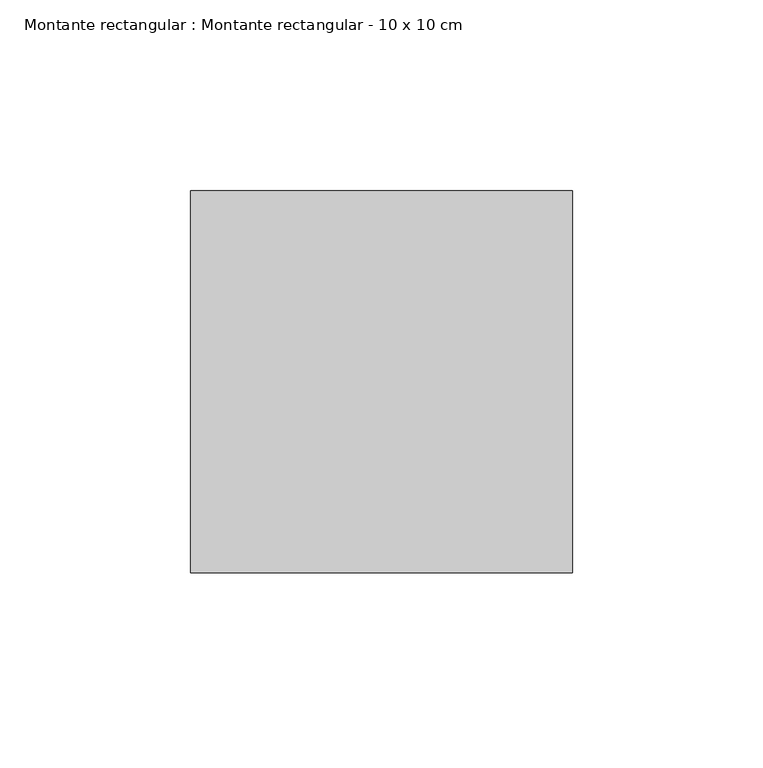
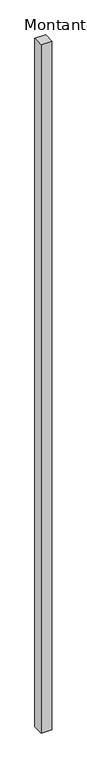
"""IFC4 building model written with IfcOpenShell, lengths in millimetres: member geometry, Montante rectangular : Montante rectangular - 10 x 10 cm."""

from ifc_helpers import new_model, si_unit, frame, origin, place, context, project, spatial, polyline, outline, extrude, source, transform, mapped, element, save


def montante_rectangular_montante_rectangular_10_x_10_cm_531712c0(model_context):
    return source(origin(), model_context, "Body", "SweptSolid", [
        extrude(outline(polyline([(0.0, -50.0), (-100.0, -50.0), (-100.0, 50.0), (0.0, 50.0), (0.0, -50.0)])), frame((0.0, 0.0, -6769.0459434), z_axis=(0.0, 0.0, 1.0), x_axis=(1.0, 0.0, 0.0)), (0.0, 0.0, 1.0), 6769.0459434),
    ])


if __name__ == "__main__":
    model = new_model("IFC4")
    model_context = context("Model", 3, world=origin())
    ifc_project = project(units=[si_unit("LENGTHUNIT", "METRE", prefix="MILLI")], contexts=[model_context])
    site = spatial("IfcSite", under=ifc_project)
    building = spatial("IfcBuilding", under=site)
    placement = place(None, origin())
    montante_rectangular_montante_rectangular_10_x_10_cm_shape = montante_rectangular_montante_rectangular_10_x_10_cm_531712c0(model_context)
    element("IfcMember", 1, ObjectType="Montante rectangular : Montante rectangular - 10 x 10 cm", at=placement, inside=building, context=model_context, shape_type="MappedRepresentation", body=[
        mapped(montante_rectangular_montante_rectangular_10_x_10_cm_shape, transform((0.0, 0.0, 0.0), x_axis=(1.0, 0.0, 0.0), y_axis=(0.0, 1.0, 0.0), z_axis=(0.0, 0.0, 1.0))),
    ])
    save(model, "model.ifc")
